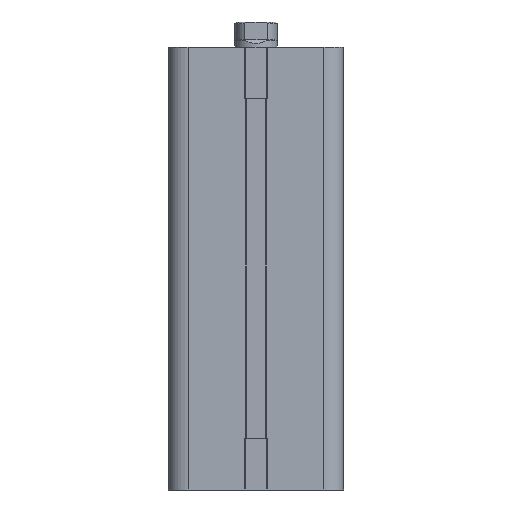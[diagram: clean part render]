
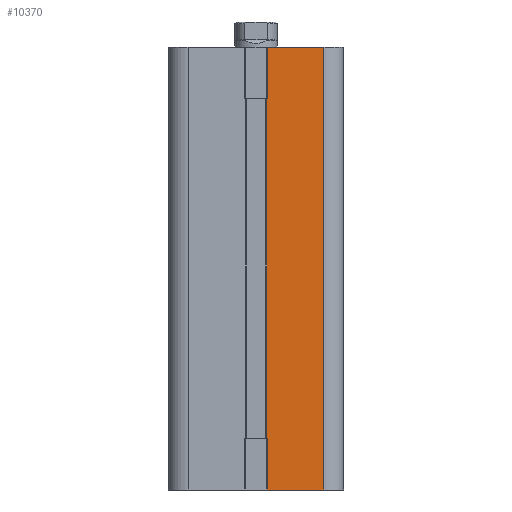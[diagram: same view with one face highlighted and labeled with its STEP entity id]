
A CAD part, front view. The second image highlights one B-rep face of the part: STEP entity #10370.
In plain terms, the highlighted planar face has unit normal (0, -1, 0).
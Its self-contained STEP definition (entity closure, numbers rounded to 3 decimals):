
#440 = ORIENTED_EDGE ( 'NONE', *, *, #12344, .T. ) ;
#441 = ORIENTED_EDGE ( 'NONE', *, *, #9470, .T. ) ;
#446 = ORIENTED_EDGE ( 'NONE', *, *, #3206, .T. ) ;
#447 = ORIENTED_EDGE ( 'NONE', *, *, #9510, .F. ) ;
#448 = ORIENTED_EDGE ( 'NONE', *, *, #9511, .T. ) ;
#449 = ORIENTED_EDGE ( 'NONE', *, *, #9643, .F. ) ;
#453 = ORIENTED_EDGE ( 'NONE', *, *, #12069, .T. ) ;
#454 = ORIENTED_EDGE ( 'NONE', *, *, #11906, .F. ) ;
#510 = CARTESIAN_POINT ( 'NONE',  ( 3.2, -24.5, 109.5 ) ) ;
#514 = CARTESIAN_POINT ( 'NONE',  ( 19., -24.5, 109.5 ) ) ;
#583 = CARTESIAN_POINT ( 'NONE',  ( 19., -24.5, -14.5 ) ) ;
#584 = CARTESIAN_POINT ( 'NONE',  ( 3.2, -24.5, -14.5 ) ) ;
#797 = CARTESIAN_POINT ( 'NONE',  ( 3.2, -24.5, 0. ) ) ;
#855 = CARTESIAN_POINT ( 'NONE',  ( 3.2, -24.5, 95. ) ) ;
#1880 = LINE ( 'NONE', #7501, #1882 ) ;
#1882 = VECTOR ( 'NONE', #7498, 1000. ) ;
#2040 = LINE ( 'NONE', #7917, #2043 ) ;
#2043 = VECTOR ( 'NONE', #7918, 1000. ) ;
#3206 = EDGE_CURVE ( 'NONE', #11142, #11486, #1880, .T. ) ;
#3324 = CARTESIAN_POINT ( 'NONE',  ( 2.95, -24.5, 95. ) ) ;
#3325 = DIRECTION ( 'NONE',  ( 0., 0., -1. ) ) ;
#3526 = CARTESIAN_POINT ( 'NONE',  ( 3.2, -24.5, -14.5 ) ) ;
#3527 = DIRECTION ( 'NONE',  ( 0., 0., -1. ) ) ;
#4523 = LINE ( 'NONE', #7997, #4526 ) ;
#4525 = LINE ( 'NONE', #7999, #4528 ) ;
#4526 = VECTOR ( 'NONE', #7998, 1000. ) ;
#4528 = VECTOR ( 'NONE', #8000, 1000. ) ;
#4735 = LINE ( 'NONE', #5100, #4737 ) ;
#4737 = VECTOR ( 'NONE', #5101, 1000. ) ;
#4919 = FACE_OUTER_BOUND ( 'NONE', #10412, .T. ) ;
#5100 = CARTESIAN_POINT ( 'NONE',  ( 3., -24.5, 109.5 ) ) ;
#5101 = DIRECTION ( 'NONE',  ( 1., 0., 0. ) ) ;
#5425 = AXIS2_PLACEMENT_3D ( 'NONE', #8331, #8340, #8341 ) ;
#5804 = VERTEX_POINT ( 'NONE', #7608 ) ;
#5806 = VERTEX_POINT ( 'NONE', #7610 ) ;
#6454 = LINE ( 'NONE', #7027, #6456 ) ;
#6456 = VECTOR ( 'NONE', #7028, 1000. ) ;
#6726 = LINE ( 'NONE', #3324, #6728 ) ;
#6728 = VECTOR ( 'NONE', #3325, 1000. ) ;
#6807 = LINE ( 'NONE', #3526, #6810 ) ;
#6810 = VECTOR ( 'NONE', #3527, 1000. ) ;
#7027 = CARTESIAN_POINT ( 'NONE',  ( 24.5, -24.5, -14.5 ) ) ;
#7028 = DIRECTION ( 'NONE',  ( -1., 0., 0. ) ) ;
#7498 = DIRECTION ( 'NONE',  ( 0., 0., -1. ) ) ;
#7501 = CARTESIAN_POINT ( 'NONE',  ( 3.2, -24.5, 164.996 ) ) ;
#7608 = CARTESIAN_POINT ( 'NONE',  ( 2.95, -24.5, 95. ) ) ;
#7610 = CARTESIAN_POINT ( 'NONE',  ( 2.95, -24.5, 0. ) ) ;
#7917 = CARTESIAN_POINT ( 'NONE',  ( 19., -24.5, 95. ) ) ;
#7918 = DIRECTION ( 'NONE',  ( 0., 0., 1. ) ) ;
#7997 = CARTESIAN_POINT ( 'NONE',  ( 2.75, -24.5, 95. ) ) ;
#7998 = DIRECTION ( 'NONE',  ( 1., 0., 0. ) ) ;
#7999 = CARTESIAN_POINT ( 'NONE',  ( 2.75, -24.5, 0. ) ) ;
#8000 = DIRECTION ( 'NONE',  ( 1., 0., 0. ) ) ;
#8331 = CARTESIAN_POINT ( 'NONE',  ( 2.75, -24.5, 95. ) ) ;
#8338 = PLANE ( 'NONE',  #5425 ) ;
#8340 = DIRECTION ( 'NONE',  ( 0., 1., 0. ) ) ;
#8341 = DIRECTION ( 'NONE',  ( 0., 0., 1. ) ) ;
#9470 = EDGE_CURVE ( 'NONE', #11214, #11143, #2040, .T. ) ;
#9510 = EDGE_CURVE ( 'NONE', #5804, #11486, #4523, .T. ) ;
#9511 = EDGE_CURVE ( 'NONE', #5806, #11428, #4525, .T. ) ;
#9643 = EDGE_CURVE ( 'NONE', #11142, #11143, #4735, .T. ) ;
#10370 = ADVANCED_FACE ( 'NONE', ( #4919 ), #8338, .F. ) ;
#10412 = EDGE_LOOP ( 'NONE', ( #441, #449, #446, #447, #453, #448, #440, #454 ) ) ;
#11142 = VERTEX_POINT ( 'NONE', #510 ) ;
#11143 = VERTEX_POINT ( 'NONE', #514 ) ;
#11214 = VERTEX_POINT ( 'NONE', #583 ) ;
#11215 = VERTEX_POINT ( 'NONE', #584 ) ;
#11428 = VERTEX_POINT ( 'NONE', #797 ) ;
#11486 = VERTEX_POINT ( 'NONE', #855 ) ;
#11906 = EDGE_CURVE ( 'NONE', #11214, #11215, #6454, .T. ) ;
#12069 = EDGE_CURVE ( 'NONE', #5804, #5806, #6726, .T. ) ;
#12344 = EDGE_CURVE ( 'NONE', #11428, #11215, #6807, .T. ) ;
